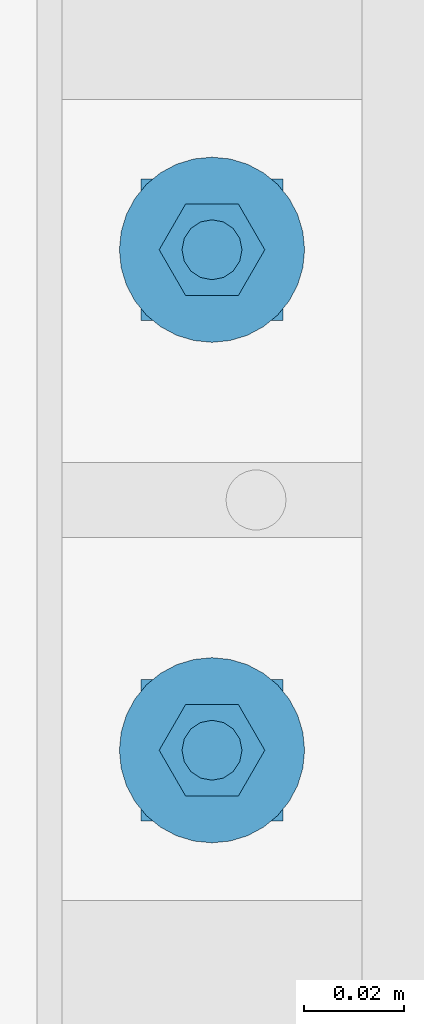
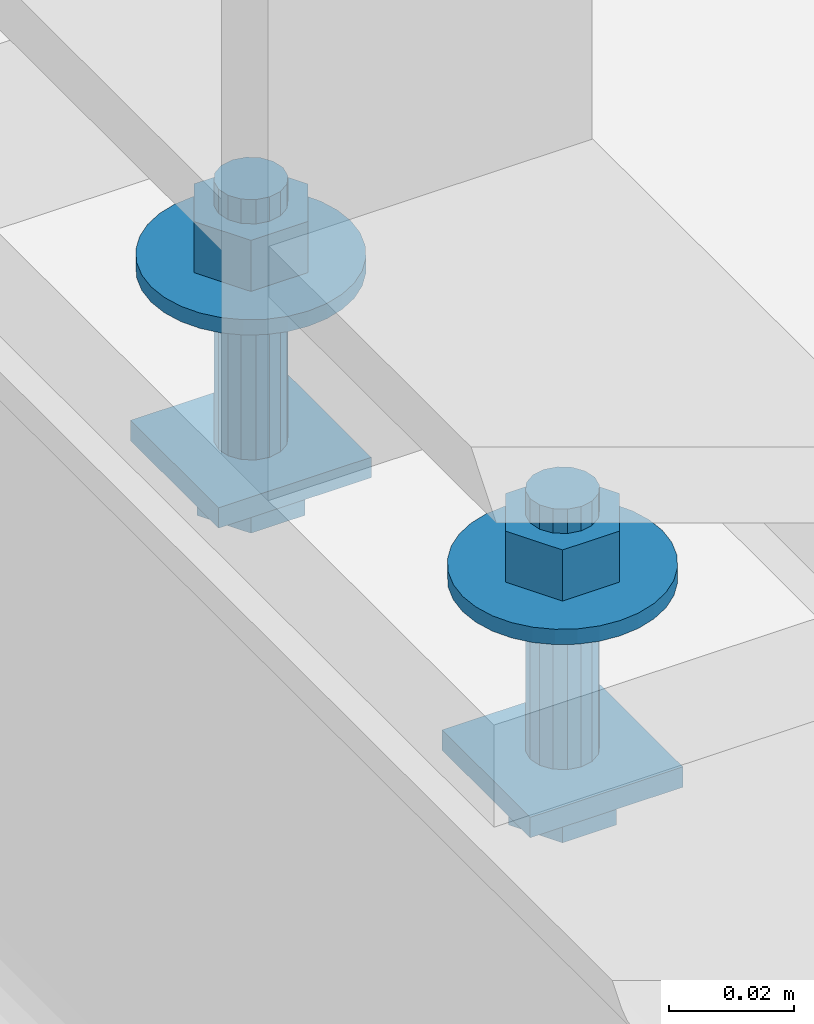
# One storey, part 279 of 817: 1 mechanical fastener.
"""IFC2X3 building model written with IfcOpenShell, lengths in millimetres."""

import ifcopenshell
import ifcopenshell.guid

model = None  # the IFC model being written
_history = None  # IfcOwnerHistory: only IFC2X3 demands one
_inside = {}  # id of a spatial element -> (the spatial element, [elements in it])
_under = {}  # id of a project, library or spatial element -> (it, [spatial elements below it])
_declared = {}  # id of a project -> (the project, [libraries it declares])
_typed = {}  # id of a type object -> (the type object, [elements of that type])
_made_of = {}  # id of a material, layer set ... -> (it, [elements and type objects made of it])


def new_model(schema):
    """Start an empty IFC model of exactly this schema.

    Asked for "IFC4X3", IfcOpenShell would pick the latest addendum, in which some entities
    have other attributes; the version numbers below select the first issue.
    IFC2X3 requires an IfcOwnerHistory on every rooted entity: one is made here for all.
    """
    global model, _history
    if schema == "IFC4X3":
        model = ifcopenshell.file(schema_version=(4, 3, 0, 0))
    else:
        model = ifcopenshell.file(schema=schema)
    _inside.clear()
    _under.clear()
    _declared.clear()
    _typed.clear()
    _made_of.clear()
    _history = None
    if model.schema == "IFC2X3":
        org = make("IfcOrganization", Name="unknown")
        user = make(
            "IfcPersonAndOrganization",
            ThePerson=make("IfcPerson", FamilyName="unknown"),
            TheOrganization=org,
        )
        app = make(
            "IfcApplication",
            ApplicationDeveloper=org,
            Version="unknown",
            ApplicationFullName="unknown",
            ApplicationIdentifier="unknown",
        )
        _history = make(
            "IfcOwnerHistory",
            OwningUser=user,
            OwningApplication=app,
            ChangeAction="ADDED",
            CreationDate=0,
        )
    return model


def make(cls, **values):
    """One entity of the class cls with the attributes given. An attribute that is None is left unset."""
    return model.create_entity(
        cls, **{name: value for name, value in values.items() if value is not None}
    )


def entity(cls, *values):
    """Any entity or typed value of the class cls, its attributes in the order of the schema. None: left unset."""
    e = model.create_entity(cls)
    for i, value in enumerate(values):
        if value is not None:
            e[i] = value
    return e


def rooted(cls, **values):
    """An entity with a GlobalId (a new one), such as an element, a storey or a relation."""
    return make(cls, GlobalId=ifcopenshell.guid.new(), OwnerHistory=_history, **values)


def si_unit(unit_type, name, prefix=None):
    """IfcSIUnit, for example si_unit("LENGTHUNIT", "METRE", prefix="MILLI")."""
    return make("IfcSIUnit", UnitType=unit_type, Prefix=prefix, Name=name)


def converted_unit(unit_type, name, factor, base, dimensions=None, offset=None):
    """IfcConversionBasedUnit, such as the inch: factor (a typed value) times the base unit."""
    return make(
        "IfcConversionBasedUnit"
        if offset is None
        else "IfcConversionBasedUnitWithOffset",
        ConversionOffset=offset,
        Dimensions=None
        if dimensions is None
        else entity("IfcDimensionalExponents", *dimensions),
        UnitType=unit_type,
        Name=name,
        ConversionFactor=make(
            "IfcMeasureWithUnit", ValueComponent=factor, UnitComponent=base
        ),
    )


def assignment(units):
    """IfcUnitAssignment: the units of a project."""
    return None if units is None else make("IfcUnitAssignment", Units=units)


def point(xyz):
    """IfcCartesianPoint."""
    return None if xyz is None else make("IfcCartesianPoint", Coordinates=xyz)


def direction(xyz):
    """IfcDirection."""
    return None if xyz is None else make("IfcDirection", DirectionRatios=xyz)


def frame(location, z_axis=None, x_axis=None):
    """IfcAxis2Placement3D, a coordinate frame: its origin and axes. An axis left out is left unset."""
    return make(
        "IfcAxis2Placement3D",
        Location=point(location),
        Axis=direction(z_axis),
        RefDirection=direction(x_axis),
    )


def origin_with_axes():
    """The frame at (0, 0, 0) with the z axis (0, 0, 1) and the x axis (1, 0, 0) written out."""
    return frame((0.0, 0.0, 0.0), z_axis=(0.0, 0.0, 1.0), x_axis=(1.0, 0.0, 0.0))


def place(relative_to, where):
    """IfcLocalPlacement: puts the frame where relative to a parent placement (None: the world)."""
    return make(
        "IfcLocalPlacement", PlacementRelTo=relative_to, RelativePlacement=where
    )


def context(
    kind, dimensions, precision=None, world=None, true_north=None, identifier=None
):
    """IfcGeometricRepresentationContext, for example the 3D "Model" context."""
    return make(
        "IfcGeometricRepresentationContext",
        ContextIdentifier=identifier,
        ContextType=kind,
        CoordinateSpaceDimension=dimensions,
        Precision=precision,
        WorldCoordinateSystem=world,
        TrueNorth=true_north,
    )


def project(units=None, contexts=None):
    """IfcProject with its units and contexts."""
    return rooted(
        "IfcProject",
        Name="project",
        RepresentationContexts=contexts,
        UnitsInContext=assignment(units),
    )


def spatial(cls, under=None, at=None, **own):
    """A site, building, storey or space (cls), placed at a placement, below another one or the project."""
    s = rooted(cls, ObjectPlacement=at, **own)
    if under is not None:
        _under.setdefault(under.id(), (under, []))[1].append(s)
    return s


def faces_of(points, faces, orient=None, outer=None):
    """IfcFace entities. A face is a list of loops; a loop is a list of indices into points, from 0.

    orient and outer hold one flag for each loop. By default every Orientation is true, the
    first loop of a face is its IfcFaceOuterBound and the others are IfcFaceBound.
    """
    made = []
    for i, loops in enumerate(faces):
        bounds = []
        for j, loop in enumerate(loops):
            is_outer = j == 0 if outer is None else outer[i][j]
            bounds.append(
                make(
                    "IfcFaceOuterBound" if is_outer else "IfcFaceBound",
                    Bound=make("IfcPolyLoop", Polygon=[points[k] for k in loop]),
                    Orientation=True if orient is None else orient[i][j],
                )
            )
        made.append(make("IfcFace", Bounds=bounds))
    return made


def faceted_brep(points, faces, orient=None, outer=None, voids=None):
    """IfcFacetedBrep: a solid bounded by flat faces; with voids (closed shells), ...WithVoids."""
    shared = [point(p) for p in points]
    hull = make("IfcClosedShell", CfsFaces=faces_of(shared, faces, orient, outer))
    if voids is None:
        return make("IfcFacetedBrep", Outer=hull)
    return make(
        "IfcFacetedBrepWithVoids",
        Outer=hull,
        Voids=[
            make(cls, CfsFaces=faces_of(shared, fs, o, b)) for cls, fs, o, b in voids
        ],
    )


def shape(context_of_items, identifier, shape_type, items):
    """IfcShapeRepresentation: the items that make up one representation, for example the "Body"."""
    return make(
        "IfcShapeRepresentation",
        ContextOfItems=context_of_items,
        RepresentationIdentifier=identifier,
        RepresentationType=shape_type,
        Items=items,
    )


def made_of(thing, what):
    """Note that an element or type object is made of a material, layer set ...; save() writes the relation."""
    if what is not None:
        _made_of.setdefault(what.id(), (what, []))[1].append(thing)
    return thing


def element(
    cls,
    number,
    at=None,
    inside=None,
    cuts=None,
    type_object=None,
    material=None,
    context=None,
    identifier="Body",
    shape_type=None,
    held_by="IfcProductDefinitionShape",
    body=None,
    shapes=None,
    **own,
):
    """One element of the class cls, such as IfcWall. Its Tag is "e" and its number.

    at: its placement. inside: the storey or other place that contains it. cuts: it is an
    opening in that element (IfcRelVoidsElement). A single representation is given by context,
    identifier, shape_type and body (its items); several are given by shapes. held_by: the class
    of the entity that holds the representations. save() writes the other relations.
    """
    e = rooted(cls, Tag="e%d" % number, ObjectPlacement=at, **own)
    if body is not None:
        shapes = [shape(context, identifier, shape_type, body)]
    if shapes is not None:
        e.Representation = make(held_by, Representations=shapes)
    if inside is not None:
        _inside.setdefault(inside.id(), (inside, []))[1].append(e)
    if cuts is not None:
        rooted(
            "IfcRelVoidsElement", RelatingBuildingElement=cuts, RelatedOpeningElement=e
        )
    if type_object is not None:
        _typed.setdefault(type_object.id(), (type_object, []))[1].append(e)
    return made_of(e, material)


def aggregate(whole, parts):
    """IfcRelAggregates: a whole, such as a stair, and the parts it consists of."""
    return rooted("IfcRelAggregates", RelatingObject=whole, RelatedObjects=parts)


def save(model, path):
    """Write the relations noted so far, then the file.

    IfcRelAggregates (storeys below a building ...), IfcRelContainedInSpatialStructure (elements
    in a storey), IfcRelDefinesByType, IfcRelAssociatesMaterial and IfcRelDeclares: one each for
    every whole, place, type object, material and project.
    """
    for whole, parts in _under.values():
        aggregate(whole, parts)
    for where, things in _inside.values():
        rooted(
            "IfcRelContainedInSpatialStructure",
            RelatedElements=things,
            RelatingStructure=where,
        )
    for kind, things in _typed.values():
        rooted("IfcRelDefinesByType", RelatedObjects=things, RelatingType=kind)
    for what, things in _made_of.values():
        rooted("IfcRelAssociatesMaterial", RelatedObjects=things, RelatingMaterial=what)
    for by, libraries in _declared.values():
        rooted("IfcRelDeclares", RelatingContext=by, RelatedDefinitions=libraries)
    model.write(path)


model = new_model("IFC2X3")

# Units and contexts
model_context = context("Model", 3, precision=1e-09, world=origin_with_axes())
ifc_project = project(units=[si_unit("LENGTHUNIT", "METRE", prefix="MILLI"), si_unit("AREAUNIT", "SQUARE_METRE"), si_unit("VOLUMEUNIT", "CUBIC_METRE"), converted_unit("PLANEANGLEUNIT", "DEGREE", entity("IfcPlaneAngleMeasure", 0.01745329), si_unit("PLANEANGLEUNIT", "RADIAN"), dimensions=[0, 0, 0, 0, 0, 0, 0])], contexts=[model_context])

# Site, building, storey
site_placement = place(None, origin_with_axes())
site = spatial("IfcSite", under=ifc_project, at=site_placement, Name="Cnopf'sche Kinderklinik", CompositionType="ELEMENT")
building_placement = place(site_placement, origin_with_axes())
building = spatial("IfcBuilding", under=site, at=building_placement, Name="Struktur 1", CompositionType="ELEMENT")
storey_placement = place(building_placement, origin_with_axes())
storey = spatial("IfcBuildingStorey", under=building, at=storey_placement, Name="Default Storey", CompositionType="ELEMENT", Elevation=0.0)

# Mechanical fastener
mechanical_fastener_placement = place(None, origin_with_axes())
element("IfcMechanicalFastener", 1, at=mechanical_fastener_placement, inside=storey, ObjectType="Bolt#514", NominalDiameter=12.0, NominalLength=55.0, context=model_context, shape_type="Brep", body=[
    faceted_brep([(3285.855538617, 5525.881107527, 17816.75599578), (3285.855538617, 5525.881107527, 17820.75599578), (3285.855538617, 5497.59683628, 17820.75599578), (3285.855538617, 5497.59683628, 17816.75599578), (3257.571267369, 5497.59683628, 17820.75599578), (3257.571267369, 5497.59683628, 17816.75599578), (3257.571267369, 5525.881107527, 17820.75599578), (3257.571267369, 5525.881107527, 17816.75599578)], [[[0, 1, 2, 3]], [[3, 2, 4, 5]], [[5, 4, 6, 7]], [[7, 6, 1, 0]], [[3, 5, 7, 0]], [[2, 1, 6, 4]]]),
    faceted_brep([(3285.855538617, 5425.881107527, 17816.75599578), (3285.855538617, 5425.881107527, 17820.75599578), (3285.855538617, 5397.59683628, 17820.75599578), (3285.855538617, 5397.59683628, 17816.75599578), (3257.571267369, 5397.59683628, 17820.75599578), (3257.571267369, 5397.59683628, 17816.75599578), (3257.571267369, 5425.881107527, 17820.75599578), (3257.571267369, 5425.881107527, 17816.75599578)], [[[0, 1, 2, 3]], [[3, 2, 4, 5]], [[5, 4, 6, 7]], [[7, 6, 1, 0]], [[3, 5, 7, 0]], [[2, 1, 6, 4]]]),
    faceted_brep([(3276.720902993, 5520.412216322, 17809.25599578), (3276.720902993, 5520.412216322, 17816.75599578), (3281.728402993, 5511.738971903, 17816.75599578), (3281.728402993, 5511.738971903, 17809.25599578), (3276.720902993, 5503.065727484, 17816.75599578), (3276.720902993, 5503.065727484, 17809.25599578), (3266.705902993, 5503.065727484, 17816.75599578), (3266.705902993, 5503.065727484, 17809.25599578), (3261.698402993, 5511.738971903, 17816.75599578), (3261.698402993, 5511.738971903, 17809.25599578), (3266.705902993, 5520.412216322, 17816.75599578), (3266.705902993, 5520.412216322, 17809.25599578)], [[[0, 1, 2, 3]], [[3, 2, 4, 5]], [[5, 4, 6, 7]], [[7, 6, 8, 9]], [[9, 8, 10, 11]], [[11, 10, 1, 0]], [[3, 5, 7, 9, 11, 0]], [[2, 1, 10, 8, 6, 4]]]),
    faceted_brep([(3276.720902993, 5420.412216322, 17809.25599578), (3276.720902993, 5420.412216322, 17816.75599578), (3281.728402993, 5411.738971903, 17816.75599578), (3281.728402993, 5411.738971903, 17809.25599578), (3276.720902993, 5403.065727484, 17816.75599578), (3276.720902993, 5403.065727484, 17809.25599578), (3266.705902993, 5403.065727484, 17816.75599578), (3266.705902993, 5403.065727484, 17809.25599578), (3261.698402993, 5411.738971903, 17816.75599578), (3261.698402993, 5411.738971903, 17809.25599578), (3266.705902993, 5420.412216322, 17816.75599578), (3266.705902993, 5420.412216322, 17809.25599578)], [[[0, 1, 2, 3]], [[3, 2, 4, 5]], [[5, 4, 6, 7]], [[7, 6, 8, 9]], [[9, 8, 10, 11]], [[11, 10, 1, 0]], [[3, 5, 7, 9, 11, 0]], [[2, 1, 10, 8, 6, 4]]]),
    faceted_brep([(3271.713402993, 5505.738971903, 17854.0), (3271.713402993, 5505.738971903, 17820.75599578), (3274.009503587, 5506.195694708, 17820.75599578), (3274.009503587, 5506.195694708, 17854.0), (3275.95604368, 5507.496331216, 17820.75599578), (3275.95604368, 5507.496331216, 17854.0), (3277.256680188, 5509.442871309, 17820.75599578), (3277.256680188, 5509.442871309, 17854.0), (3277.713402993, 5511.738971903, 17820.75599578), (3277.713402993, 5511.738971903, 17854.0), (3277.256680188, 5514.035072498, 17820.75599578), (3277.256680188, 5514.035072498, 17854.0), (3275.95604368, 5515.981612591, 17820.75599578), (3275.95604368, 5515.98161259, 17854.0), (3274.009503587, 5517.282249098, 17820.75599578), (3274.009503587, 5517.282249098, 17854.0), (3271.713402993, 5517.738971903, 17820.75599578), (3271.713402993, 5517.738971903, 17854.0), (3269.417302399, 5517.282249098, 17820.75599578), (3269.417302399, 5517.282249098, 17854.0), (3267.470762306, 5515.98161259, 17820.75599578), (3267.470762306, 5515.98161259, 17854.0), (3266.170125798, 5514.035072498, 17820.75599578), (3266.170125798, 5514.035072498, 17854.0), (3265.713402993, 5511.738971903, 17820.75599578), (3265.713402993, 5511.738971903, 17854.0), (3266.170125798, 5509.442871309, 17820.75599578), (3266.170125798, 5509.442871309, 17854.0), (3267.470762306, 5507.496331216, 17820.75599578), (3267.470762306, 5507.496331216, 17854.0), (3269.417302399, 5506.195694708, 17820.75599578), (3269.417302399, 5506.195694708, 17854.0)], [[[0, 1, 2, 3]], [[3, 2, 4, 5]], [[5, 4, 6, 7]], [[7, 6, 8, 9]], [[9, 8, 10, 11]], [[11, 10, 12, 13]], [[13, 12, 14, 15]], [[15, 14, 16, 17]], [[17, 16, 18, 19]], [[19, 18, 20, 21]], [[21, 20, 22, 23]], [[23, 22, 24, 25]], [[25, 24, 26, 27]], [[27, 26, 28, 29]], [[29, 28, 30, 31]], [[31, 30, 1, 0]], [[2, 1, 30, 28, 26, 24, 22, 20, 18, 16, 14, 12, 10, 8, 6, 4]], [[31, 0, 3, 5, 7, 9, 11, 13, 15, 17, 19, 21, 23, 25, 27, 29]]]),
    faceted_brep([(3271.713402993, 5405.738971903, 17854.0), (3271.713402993, 5405.738971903, 17820.75599578), (3274.009503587, 5406.195694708, 17820.75599578), (3274.009503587, 5406.195694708, 17854.0), (3275.95604368, 5407.496331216, 17820.75599578), (3275.95604368, 5407.496331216, 17854.0), (3277.256680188, 5409.442871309, 17820.75599578), (3277.256680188, 5409.442871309, 17854.0), (3277.713402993, 5411.738971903, 17820.75599578), (3277.713402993, 5411.738971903, 17854.0), (3277.256680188, 5414.035072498, 17820.75599578), (3277.256680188, 5414.035072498, 17854.0), (3275.95604368, 5415.981612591, 17820.75599578), (3275.95604368, 5415.98161259, 17854.0), (3274.009503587, 5417.282249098, 17820.75599578), (3274.009503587, 5417.282249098, 17854.0), (3271.713402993, 5417.738971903, 17820.75599578), (3271.713402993, 5417.738971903, 17854.0), (3269.417302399, 5417.282249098, 17820.75599578), (3269.417302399, 5417.282249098, 17854.0), (3267.470762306, 5415.98161259, 17820.75599578), (3267.470762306, 5415.98161259, 17854.0), (3266.170125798, 5414.035072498, 17820.75599578), (3266.170125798, 5414.035072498, 17854.0), (3265.713402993, 5411.738971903, 17820.75599578), (3265.713402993, 5411.738971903, 17854.0), (3266.170125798, 5409.442871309, 17820.75599578), (3266.170125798, 5409.442871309, 17854.0), (3267.470762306, 5407.496331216, 17820.75599578), (3267.470762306, 5407.496331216, 17854.0), (3269.417302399, 5406.195694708, 17820.75599578), (3269.417302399, 5406.195694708, 17854.0)], [[[0, 1, 2, 3]], [[3, 2, 4, 5]], [[5, 4, 6, 7]], [[7, 6, 8, 9]], [[9, 8, 10, 11]], [[11, 10, 12, 13]], [[13, 12, 14, 15]], [[15, 14, 16, 17]], [[17, 16, 18, 19]], [[19, 18, 20, 21]], [[21, 20, 22, 23]], [[23, 22, 24, 25]], [[25, 24, 26, 27]], [[27, 26, 28, 29]], [[29, 28, 30, 31]], [[31, 30, 1, 0]], [[2, 1, 30, 28, 26, 24, 22, 20, 18, 16, 14, 12, 10, 8, 6, 4]], [[31, 0, 3, 5, 7, 9, 11, 13, 15, 17, 19, 21, 23, 25, 27, 29]]]),
    faceted_brep([(3271.713402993, 5493.238971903, 17857.0), (3271.713402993, 5493.238971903, 17854.0), (3275.32257395, 5493.594444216, 17854.0), (3275.32257395, 5493.594444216, 17857.0), (3278.793046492, 5494.647200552, 17854.0), (3278.793046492, 5494.647200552, 17857.0), (3281.991452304, 5496.356784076, 17854.0), (3281.991452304, 5496.356784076, 17857.0), (3284.794878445, 5498.657496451, 17854.0), (3284.794878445, 5498.657496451, 17857.0), (3287.095590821, 5501.460922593, 17854.0), (3287.095590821, 5501.460922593, 17857.0), (3288.805174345, 5504.659328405, 17854.0), (3288.805174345, 5504.659328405, 17857.0), (3289.857930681, 5508.129800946, 17854.0), (3289.857930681, 5508.129800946, 17857.0), (3290.213402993, 5511.738971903, 17854.0), (3290.213402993, 5511.738971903, 17857.0), (3289.857930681, 5515.348142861, 17854.0), (3289.857930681, 5515.348142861, 17857.0), (3288.805174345, 5518.818615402, 17854.0), (3288.805174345, 5518.818615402, 17857.0), (3287.095590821, 5522.017021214, 17854.0), (3287.095590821, 5522.017021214, 17857.0), (3284.794878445, 5524.820447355, 17854.0), (3284.794878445, 5524.820447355, 17857.0), (3281.991452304, 5527.121159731, 17854.0), (3281.991452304, 5527.121159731, 17857.0), (3278.793046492, 5528.830743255, 17854.0), (3278.793046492, 5528.830743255, 17857.0), (3275.32257395, 5529.883499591, 17854.0), (3275.32257395, 5529.883499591, 17857.0), (3271.713402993, 5530.238971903, 17854.0), (3271.713402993, 5530.238971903, 17857.0), (3268.104232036, 5529.883499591, 17854.0), (3268.104232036, 5529.883499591, 17857.0), (3264.633759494, 5528.830743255, 17854.0), (3264.633759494, 5528.830743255, 17857.0), (3261.435353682, 5527.121159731, 17854.0), (3261.435353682, 5527.121159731, 17857.0), (3258.631927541, 5524.820447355, 17854.0), (3258.631927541, 5524.820447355, 17857.0), (3256.331215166, 5522.017021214, 17854.0), (3256.331215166, 5522.017021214, 17857.0), (3254.621631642, 5518.818615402, 17854.0), (3254.621631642, 5518.818615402, 17857.0), (3253.568875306, 5515.348142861, 17854.0), (3253.568875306, 5515.348142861, 17857.0), (3253.213402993, 5511.738971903, 17854.0), (3253.213402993, 5511.738971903, 17857.0), (3253.568875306, 5508.129800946, 17854.0), (3253.568875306, 5508.129800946, 17857.0), (3254.621631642, 5504.659328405, 17854.0), (3254.621631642, 5504.659328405, 17857.0), (3256.331215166, 5501.460922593, 17854.0), (3256.331215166, 5501.460922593, 17857.0), (3258.631927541, 5498.657496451, 17854.0), (3258.631927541, 5498.657496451, 17857.0), (3261.435353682, 5496.356784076, 17854.0), (3261.435353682, 5496.356784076, 17857.0), (3264.633759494, 5494.647200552, 17854.0), (3264.633759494, 5494.647200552, 17857.0), (3268.104232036, 5493.594444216, 17854.0), (3268.104232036, 5493.594444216, 17857.0)], [[[0, 1, 2, 3]], [[3, 2, 4, 5]], [[5, 4, 6, 7]], [[7, 6, 8, 9]], [[9, 8, 10, 11]], [[11, 10, 12, 13]], [[13, 12, 14, 15]], [[15, 14, 16, 17]], [[17, 16, 18, 19]], [[19, 18, 20, 21]], [[21, 20, 22, 23]], [[23, 22, 24, 25]], [[25, 24, 26, 27]], [[27, 26, 28, 29]], [[29, 28, 30, 31]], [[31, 30, 32, 33]], [[33, 32, 34, 35]], [[35, 34, 36, 37]], [[37, 36, 38, 39]], [[39, 38, 40, 41]], [[41, 40, 42, 43]], [[43, 42, 44, 45]], [[45, 44, 46, 47]], [[47, 46, 48, 49]], [[49, 48, 50, 51]], [[51, 50, 52, 53]], [[53, 52, 54, 55]], [[55, 54, 56, 57]], [[57, 56, 58, 59]], [[59, 58, 60, 61]], [[61, 60, 62, 63]], [[63, 62, 1, 0]], [[2, 1, 62, 60, 58, 56, 54, 52, 50, 48, 46, 44, 42, 40, 38, 36, 34, 32, 30, 28, 26, 24, 22, 20, 18, 16, 14, 12, 10, 8, 6, 4]], [[63, 0, 3, 5, 7, 9, 11, 13, 15, 17, 19, 21, 23, 25, 27, 29, 31, 33, 35, 37, 39, 41, 43, 45, 47, 49, 51, 53, 55, 57, 59, 61]]]),
    faceted_brep([(3271.713402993, 5393.238971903, 17857.0), (3271.713402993, 5393.238971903, 17854.0), (3275.32257395, 5393.594444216, 17854.0), (3275.32257395, 5393.594444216, 17857.0), (3278.793046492, 5394.647200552, 17854.0), (3278.793046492, 5394.647200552, 17857.0), (3281.991452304, 5396.356784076, 17854.0), (3281.991452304, 5396.356784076, 17857.0), (3284.794878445, 5398.657496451, 17854.0), (3284.794878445, 5398.657496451, 17857.0), (3287.095590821, 5401.460922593, 17854.0), (3287.095590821, 5401.460922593, 17857.0), (3288.805174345, 5404.659328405, 17854.0), (3288.805174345, 5404.659328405, 17857.0), (3289.857930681, 5408.129800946, 17854.0), (3289.857930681, 5408.129800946, 17857.0), (3290.213402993, 5411.738971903, 17854.0), (3290.213402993, 5411.738971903, 17857.0), (3289.857930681, 5415.348142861, 17854.0), (3289.857930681, 5415.348142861, 17857.0), (3288.805174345, 5418.818615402, 17854.0), (3288.805174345, 5418.818615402, 17857.0), (3287.095590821, 5422.017021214, 17854.0), (3287.095590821, 5422.017021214, 17857.0), (3284.794878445, 5424.820447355, 17854.0), (3284.794878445, 5424.820447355, 17857.0), (3281.991452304, 5427.121159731, 17854.0), (3281.991452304, 5427.121159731, 17857.0), (3278.793046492, 5428.830743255, 17854.0), (3278.793046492, 5428.830743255, 17857.0), (3275.32257395, 5429.883499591, 17854.0), (3275.32257395, 5429.883499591, 17857.0), (3271.713402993, 5430.238971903, 17854.0), (3271.713402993, 5430.238971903, 17857.0), (3268.104232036, 5429.883499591, 17854.0), (3268.104232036, 5429.883499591, 17857.0), (3264.633759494, 5428.830743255, 17854.0), (3264.633759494, 5428.830743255, 17857.0), (3261.435353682, 5427.121159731, 17854.0), (3261.435353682, 5427.121159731, 17857.0), (3258.631927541, 5424.820447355, 17854.0), (3258.631927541, 5424.820447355, 17857.0), (3256.331215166, 5422.017021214, 17854.0), (3256.331215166, 5422.017021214, 17857.0), (3254.621631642, 5418.818615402, 17854.0), (3254.621631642, 5418.818615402, 17857.0), (3253.568875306, 5415.348142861, 17854.0), (3253.568875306, 5415.348142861, 17857.0), (3253.213402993, 5411.738971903, 17854.0), (3253.213402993, 5411.738971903, 17857.0), (3253.568875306, 5408.129800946, 17854.0), (3253.568875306, 5408.129800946, 17857.0), (3254.621631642, 5404.659328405, 17854.0), (3254.621631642, 5404.659328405, 17857.0), (3256.331215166, 5401.460922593, 17854.0), (3256.331215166, 5401.460922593, 17857.0), (3258.631927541, 5398.657496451, 17854.0), (3258.631927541, 5398.657496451, 17857.0), (3261.435353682, 5396.356784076, 17854.0), (3261.435353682, 5396.356784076, 17857.0), (3264.633759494, 5394.647200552, 17854.0), (3264.633759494, 5394.647200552, 17857.0), (3268.104232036, 5393.594444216, 17854.0), (3268.104232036, 5393.594444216, 17857.0)], [[[0, 1, 2, 3]], [[3, 2, 4, 5]], [[5, 4, 6, 7]], [[7, 6, 8, 9]], [[9, 8, 10, 11]], [[11, 10, 12, 13]], [[13, 12, 14, 15]], [[15, 14, 16, 17]], [[17, 16, 18, 19]], [[19, 18, 20, 21]], [[21, 20, 22, 23]], [[23, 22, 24, 25]], [[25, 24, 26, 27]], [[27, 26, 28, 29]], [[29, 28, 30, 31]], [[31, 30, 32, 33]], [[33, 32, 34, 35]], [[35, 34, 36, 37]], [[37, 36, 38, 39]], [[39, 38, 40, 41]], [[41, 40, 42, 43]], [[43, 42, 44, 45]], [[45, 44, 46, 47]], [[47, 46, 48, 49]], [[49, 48, 50, 51]], [[51, 50, 52, 53]], [[53, 52, 54, 55]], [[55, 54, 56, 57]], [[57, 56, 58, 59]], [[59, 58, 60, 61]], [[61, 60, 62, 63]], [[63, 62, 1, 0]], [[2, 1, 62, 60, 58, 56, 54, 52, 50, 48, 46, 44, 42, 40, 38, 36, 34, 32, 30, 28, 26, 24, 22, 20, 18, 16, 14, 12, 10, 8, 6, 4]], [[63, 0, 3, 5, 7, 9, 11, 13, 15, 17, 19, 21, 23, 25, 27, 29, 31, 33, 35, 37, 39, 41, 43, 45, 47, 49, 51, 53, 55, 57, 59, 61]]]),
    faceted_brep([(3276.988402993, 5520.875539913, 17857.0), (3276.988402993, 5520.875539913, 17867.0), (3282.263402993, 5511.738971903, 17867.0), (3282.263402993, 5511.738971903, 17857.0), (3276.988402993, 5502.602403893, 17867.0), (3276.988402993, 5502.602403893, 17857.0), (3266.438402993, 5502.602403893, 17867.0), (3266.438402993, 5502.602403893, 17857.0), (3261.163402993, 5511.738971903, 17867.0), (3261.163402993, 5511.738971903, 17857.0), (3266.438402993, 5520.875539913, 17867.0), (3266.438402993, 5520.875539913, 17857.0)], [[[0, 1, 2, 3]], [[3, 2, 4, 5]], [[5, 4, 6, 7]], [[7, 6, 8, 9]], [[9, 8, 10, 11]], [[11, 10, 1, 0]], [[3, 5, 7, 9, 11, 0]], [[2, 1, 10, 8, 6, 4]]]),
    faceted_brep([(3276.988402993, 5420.875539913, 17857.0), (3276.988402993, 5420.875539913, 17867.0), (3282.263402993, 5411.738971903, 17867.0), (3282.263402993, 5411.738971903, 17857.0), (3276.988402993, 5402.602403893, 17867.0), (3276.988402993, 5402.602403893, 17857.0), (3266.438402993, 5402.602403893, 17867.0), (3266.438402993, 5402.602403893, 17857.0), (3261.163402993, 5411.738971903, 17867.0), (3261.163402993, 5411.738971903, 17857.0), (3266.438402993, 5420.875539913, 17867.0), (3266.438402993, 5420.875539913, 17857.0)], [[[0, 1, 2, 3]], [[3, 2, 4, 5]], [[5, 4, 6, 7]], [[7, 6, 8, 9]], [[9, 8, 10, 11]], [[11, 10, 1, 0]], [[3, 5, 7, 9, 11, 0]], [[2, 1, 10, 8, 6, 4]]]),
    faceted_brep([(3271.713402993, 5505.738971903, 17871.75599578), (3271.713402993, 5505.738971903, 17867.0), (3274.009503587, 5506.195694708, 17867.0), (3274.009503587, 5506.195694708, 17871.75599578), (3275.95604368, 5507.496331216, 17867.0), (3275.95604368, 5507.496331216, 17871.75599578), (3277.256680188, 5509.442871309, 17867.0), (3277.256680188, 5509.442871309, 17871.75599578), (3277.713402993, 5511.738971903, 17867.0), (3277.713402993, 5511.738971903, 17871.75599578), (3277.256680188, 5514.035072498, 17867.0), (3277.256680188, 5514.035072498, 17871.75599578), (3275.95604368, 5515.98161259, 17867.0), (3275.95604368, 5515.98161259, 17871.75599578), (3274.009503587, 5517.282249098, 17867.0), (3274.009503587, 5517.282249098, 17871.75599578), (3271.713402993, 5517.738971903, 17867.0), (3271.713402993, 5517.738971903, 17871.75599578), (3269.417302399, 5517.282249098, 17867.0), (3269.417302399, 5517.282249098, 17871.75599578), (3267.470762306, 5515.98161259, 17867.0), (3267.470762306, 5515.98161259, 17871.75599578), (3266.170125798, 5514.035072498, 17867.0), (3266.170125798, 5514.035072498, 17871.75599578), (3265.713402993, 5511.738971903, 17867.0), (3265.713402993, 5511.738971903, 17871.75599578), (3266.170125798, 5509.442871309, 17867.0), (3266.170125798, 5509.442871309, 17871.75599578), (3267.470762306, 5507.496331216, 17867.0), (3267.470762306, 5507.496331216, 17871.75599578), (3269.417302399, 5506.195694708, 17867.0), (3269.417302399, 5506.195694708, 17871.75599578)], [[[0, 1, 2, 3]], [[3, 2, 4, 5]], [[5, 4, 6, 7]], [[7, 6, 8, 9]], [[9, 8, 10, 11]], [[11, 10, 12, 13]], [[13, 12, 14, 15]], [[15, 14, 16, 17]], [[17, 16, 18, 19]], [[19, 18, 20, 21]], [[21, 20, 22, 23]], [[23, 22, 24, 25]], [[25, 24, 26, 27]], [[27, 26, 28, 29]], [[29, 28, 30, 31]], [[31, 30, 1, 0]], [[2, 1, 30, 28, 26, 24, 22, 20, 18, 16, 14, 12, 10, 8, 6, 4]], [[31, 0, 3, 5, 7, 9, 11, 13, 15, 17, 19, 21, 23, 25, 27, 29]]]),
    faceted_brep([(3271.713402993, 5405.738971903, 17871.75599578), (3271.713402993, 5405.738971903, 17867.0), (3274.009503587, 5406.195694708, 17867.0), (3274.009503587, 5406.195694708, 17871.75599578), (3275.95604368, 5407.496331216, 17867.0), (3275.95604368, 5407.496331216, 17871.75599578), (3277.256680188, 5409.442871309, 17867.0), (3277.256680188, 5409.442871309, 17871.75599578), (3277.713402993, 5411.738971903, 17867.0), (3277.713402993, 5411.738971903, 17871.75599578), (3277.256680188, 5414.035072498, 17867.0), (3277.256680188, 5414.035072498, 17871.75599578), (3275.95604368, 5415.98161259, 17867.0), (3275.95604368, 5415.98161259, 17871.75599578), (3274.009503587, 5417.282249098, 17867.0), (3274.009503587, 5417.282249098, 17871.75599578), (3271.713402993, 5417.738971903, 17867.0), (3271.713402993, 5417.738971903, 17871.75599578), (3269.417302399, 5417.282249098, 17867.0), (3269.417302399, 5417.282249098, 17871.75599578), (3267.470762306, 5415.98161259, 17867.0), (3267.470762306, 5415.98161259, 17871.75599578), (3266.170125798, 5414.035072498, 17867.0), (3266.170125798, 5414.035072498, 17871.75599578), (3265.713402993, 5411.738971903, 17867.0), (3265.713402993, 5411.738971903, 17871.75599578), (3266.170125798, 5409.442871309, 17867.0), (3266.170125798, 5409.442871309, 17871.75599578), (3267.470762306, 5407.496331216, 17867.0), (3267.470762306, 5407.496331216, 17871.75599578), (3269.417302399, 5406.195694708, 17867.0), (3269.417302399, 5406.195694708, 17871.75599578)], [[[0, 1, 2, 3]], [[3, 2, 4, 5]], [[5, 4, 6, 7]], [[7, 6, 8, 9]], [[9, 8, 10, 11]], [[11, 10, 12, 13]], [[13, 12, 14, 15]], [[15, 14, 16, 17]], [[17, 16, 18, 19]], [[19, 18, 20, 21]], [[21, 20, 22, 23]], [[23, 22, 24, 25]], [[25, 24, 26, 27]], [[27, 26, 28, 29]], [[29, 28, 30, 31]], [[31, 30, 1, 0]], [[2, 1, 30, 28, 26, 24, 22, 20, 18, 16, 14, 12, 10, 8, 6, 4]], [[31, 0, 3, 5, 7, 9, 11, 13, 15, 17, 19, 21, 23, 25, 27, 29]]]),
])

save(model, "model.ifc")
